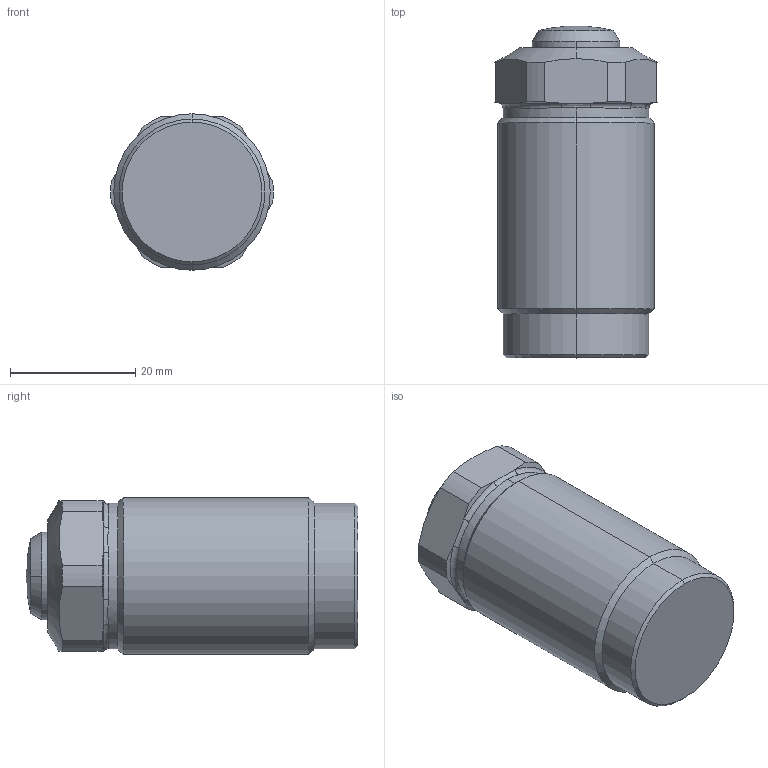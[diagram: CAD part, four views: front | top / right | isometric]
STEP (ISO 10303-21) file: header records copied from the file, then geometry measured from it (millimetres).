
FILE_DESCRIPTION((' '),'2;1');
FILE_NAME( 'CMC04-15R.X_T.stp', '2024-08-27T13:58:38', (' '), ('--- Datakit www.datakit.com---'), ' Datakit CrossCadWare V2024.1 Dec 21 2023', 'Mastercam 2025', ' ');
FILE_SCHEMA(('AUTOMOTIVE_DESIGN { 1 0 10303 214 1 1 1 1 }'));
Length unit declared in the file: millimetre
Products named in the file (1): CMC04-15R
Bounding box: 25.98 x 53 x 25 mm (x, y, z)
Volume: 23812.7 mm3; surface area: 6421.8 mm2
Topology: 2 solids, 2 shells, 56 faces, 132 edges, 79 vertices
Faces by surface type: cone 16, cylinder 16, plane 10, torus 6, bspline 6, sphere 2
Entity records: 2882 total; most frequent: CARTESIAN_POINT 1618, DIRECTION 262, ORIENTED_EDGE 260, EDGE_CURVE 130, AXIS2_PLACEMENT_3D 115, VERTEX_POINT 79, CIRCLE 64, EDGE_LOOP 57
